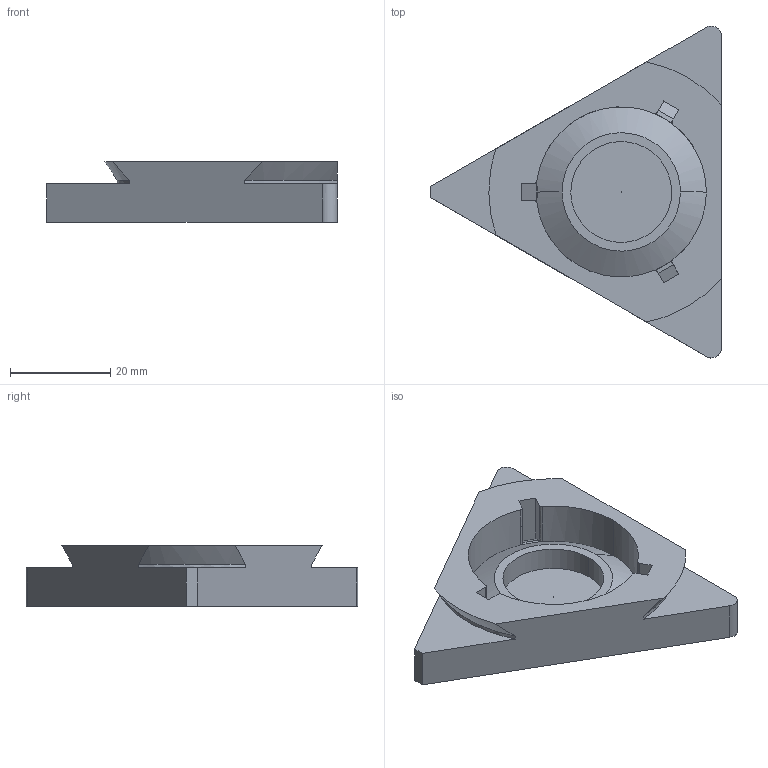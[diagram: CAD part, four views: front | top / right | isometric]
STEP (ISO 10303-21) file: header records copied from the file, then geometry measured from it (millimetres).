
FILE_DESCRIPTION(/* description */ (''),/* implementation_level */ '2;1');
FILE_NAME(/* name */ 'LOCKED~2',/* time_stamp */ '2017-07-31T14:19:39-07:00',/* author */ (''),/* organization */ (''),/* preprocessor_version */ 'ST-DEVELOPER v15',/* originating_system */ '',/* authorisation */ '');
FILE_SCHEMA (('AUTOMOTIVE_DESIGN'));
Length unit declared in the file: millimetre
Products named in the file (1): Document
Bounding box: 58.09 x 66.35 x 12.13 mm (x, y, z)
Volume: 15630.2 mm3; surface area: 8021.2 mm2
Topology: 1 solids, 1 shells, 53 faces, 142 edges, 94 vertices
Faces by surface type: plane 31, bspline 22
Entity records: 1728 total; most frequent: CARTESIAN_POINT 844, ORIENTED_EDGE 284, EDGE_CURVE 142, VERTEX_POINT 94, B_SPLINE_CURVE_WITH_KNOTS 81, EDGE_LOOP 56, ADVANCED_FACE 53, FACE_OUTER_BOUND 53
